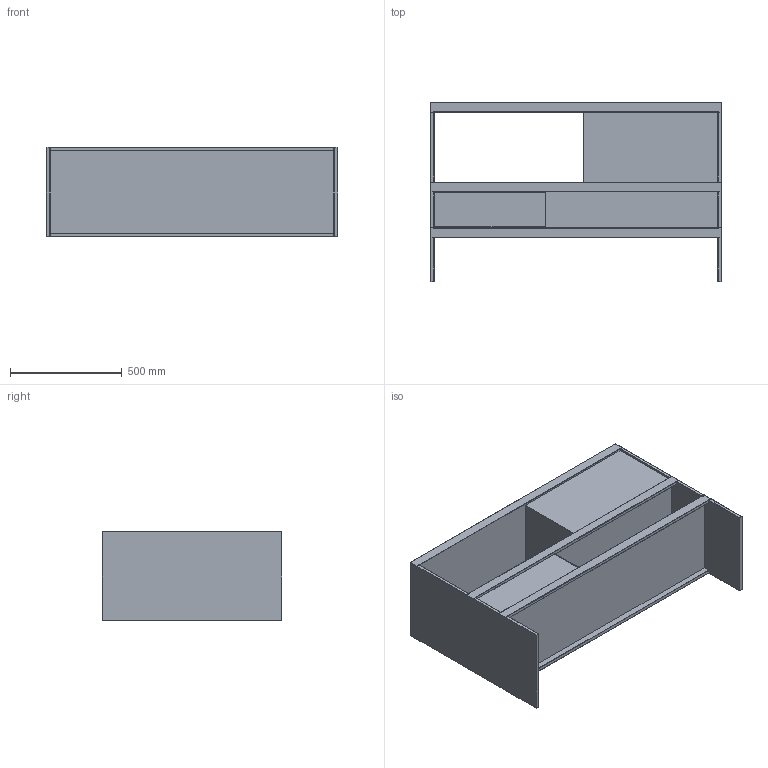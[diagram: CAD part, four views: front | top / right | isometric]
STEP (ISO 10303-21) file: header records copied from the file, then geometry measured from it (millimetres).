
FILE_DESCRIPTION (( 'STEP AP203' ), '1' );
FILE_NAME ('MIES SIDEBOARD 130x80x40.STEP', '2025-10-15T10:53:19', ( '' ), ( '' ), 'SwSTEP 2.0', 'SolidWorks 2025', '' );
FILE_SCHEMA (( 'CONFIG_CONTROL_DESIGN' ));
Length unit declared in the file: millimetre
Products named in the file (2): Group1^MIES SIDEBOARD 130x80x40; MIES SIDEBOARD 130x80x40
Assembly tree (1 placements, depth 2):
  MIES SIDEBOARD 130x80x40
    Group1^MIES SIDEBOARD 130x80x40
Bounding box: 1300 x 800 x 400 mm (x, y, z)
Volume: 46995333.5 mm3; surface area: 8417360.8 mm2
Topology: 49 solids, 49 shells, 1666 faces, 4644 edges, 3066 vertices
Faces by surface type: plane 889, cylinder 747, cone 20, bspline 10
Entity records: 53832 total; most frequent: CARTESIAN_POINT 9560, DIRECTION 9458, ORIENTED_EDGE 9268, EDGE_CURVE 4634, AXIS2_PLACEMENT_3D 3184, LINE 3090, VECTOR 3090, VERTEX_POINT 3066
